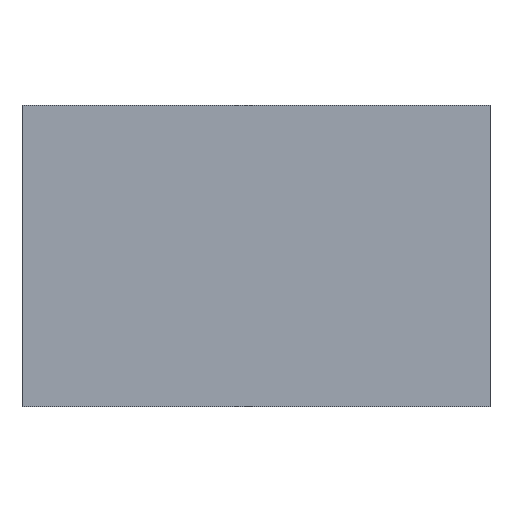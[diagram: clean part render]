
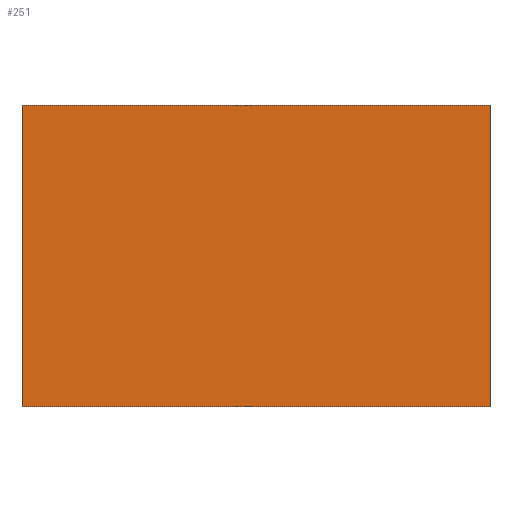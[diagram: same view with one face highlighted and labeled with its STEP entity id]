
A CAD part, left-side view. The second image highlights one B-rep face of the part: STEP entity #251.
In plain terms, the highlighted planar face has unit normal (-1, 0, 0).
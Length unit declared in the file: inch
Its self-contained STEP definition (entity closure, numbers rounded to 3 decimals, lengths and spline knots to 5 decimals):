
#31=FACE_OUTER_BOUND('',#46,.T.);
#46=EDGE_LOOP('',(#196,#197,#198,#199));
#55=LINE('',#358,#84);
#68=LINE('',#389,#97);
#74=LINE('',#403,#103);
#75=LINE('',#404,#104);
#84=VECTOR('',#293,0.3937);
#97=VECTOR('',#316,0.3937);
#103=VECTOR('',#330,0.3937);
#104=VECTOR('',#331,0.3937);
#113=VERTEX_POINT('',#356);
#114=VERTEX_POINT('',#357);
#127=VERTEX_POINT('',#388);
#131=VERTEX_POINT('',#402);
#135=EDGE_CURVE('',#113,#114,#55,.T.);
#150=EDGE_CURVE('',#113,#127,#68,.T.);
#157=EDGE_CURVE('',#114,#131,#74,.T.);
#158=EDGE_CURVE('',#127,#131,#75,.T.);
#196=ORIENTED_EDGE('',*,*,#135,.T.);
#197=ORIENTED_EDGE('',*,*,#157,.T.);
#198=ORIENTED_EDGE('',*,*,#158,.F.);
#199=ORIENTED_EDGE('',*,*,#150,.F.);
#239=PLANE('',#281);
#251=ADVANCED_FACE('',(#31),#239,.T.);
#281=AXIS2_PLACEMENT_3D('',#401,#328,#329);
#293=DIRECTION('',(0.,1.,0.));
#316=DIRECTION('',(0.,0.,-1.));
#328=DIRECTION('center_axis',(-1.,0.,0.));
#329=DIRECTION('ref_axis',(0.,1.,0.));
#330=DIRECTION('',(0.,0.,-1.));
#331=DIRECTION('',(0.,1.,0.));
#356=CARTESIAN_POINT('',(-1.8,-2.46085,1.525));
#357=CARTESIAN_POINT('',(-1.8,-1.49771,1.525));
#358=CARTESIAN_POINT('',(-1.8,-2.22007,1.525));
#388=CARTESIAN_POINT('',(-1.8,-2.46085,0.905));
#389=CARTESIAN_POINT('',(-1.8,-2.46085,1.875));
#401=CARTESIAN_POINT('Origin',(-1.8,-2.46085,1.875));
#402=CARTESIAN_POINT('',(-1.8,-1.49771,0.905));
#403=CARTESIAN_POINT('',(-1.8,-1.49771,1.875));
#404=CARTESIAN_POINT('',(-1.8,-2.21991,0.905));
